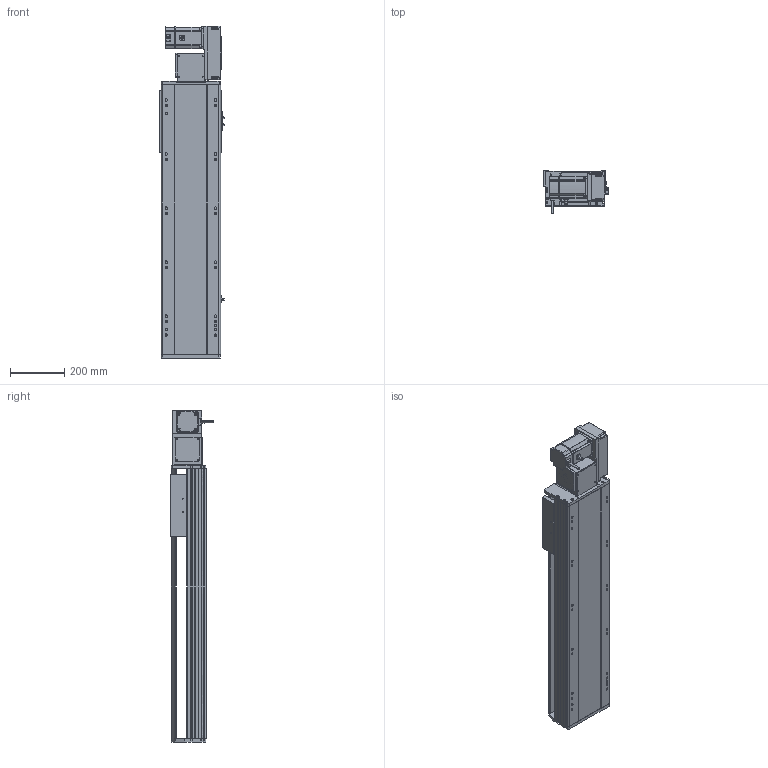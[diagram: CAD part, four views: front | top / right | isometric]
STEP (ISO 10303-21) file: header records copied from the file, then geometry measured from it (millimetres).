
FILE_DESCRIPTION (( 'STEP AP214' ), '1' );
FILE_NAME ('RTB22S-XX-650-R-M75-C4.STEP', '2025-12-12T07:17:00', ( '' ), ( '' ), 'SwSTEP 2.0', 'SolidWorks 2018', '' );
FILE_SCHEMA (( 'AUTOMOTIVE_DESIGN' ));
Length unit declared in the file: millimetre
Products named in the file (14): RTB22S-GY-007奻裔^RTB22S-XX-XX-R-M75-C4; 750W萇儂^RTB22S-XX-XX-R-M75-C4; RTB22S-GY-008-M75--萇儂啣^RTB22S-R-々湍釱蚾饜_RTB22S-XX-XX-R-M75-C4; RTB22S-GY-014--々湍釱^RTB22S-R-々湍釱蚾饜_RTB22S-XX-XX-R-M75-C4; RTB22S-L-011菁釱^RTB22S-XX-XX-R-M75-C4; RTB22S-R-々湍釱蚾饜^RTB22S-XX-XX-R-M75-C4; RTB22S-GY-017P^RTB22S-R-々湍釱蚾饜_RTB22S-XX-XX-R-M75-C4; OMRON EE-SX672 传感器^RTB22S-XX-XX-R-M75-C4; RTB22S-GY-001耜裔^RTB22S-XX-XX-R-M75-C4; RTB22S-GY-018P^RTB22S-R-々湍釱蚾饜_RTB22S-XX-XX-R-M75-C4; RTB22S-L-004賑釱^RTB22S-XX-XX-R-M75-C4; RTB22S-XX-650-R-M75-C4; RTB22S-GY-005P^RTB22S-R-々湍釱蚾饜_RTB22S-XX-XX-R-M75-C4; RTH22-GY-013外置感应片^RTB22S-XX-XX-R-M75-C4
Assembly tree (16 placements, depth 3):
  RTB22S-XX-650-R-M75-C4
    RTB22S-L-011菁釱^RTB22S-XX-XX-R-M75-C4
    RTB22S-GY-001耜裔^RTB22S-XX-XX-R-M75-C4
    750W萇儂^RTB22S-XX-XX-R-M75-C4
    RTB22S-GY-007奻裔^RTB22S-XX-XX-R-M75-C4
    RTB22S-L-004賑釱^RTB22S-XX-XX-R-M75-C4
    RTH22-GY-013外置感应片^RTB22S-XX-XX-R-M75-C4
    OMRON EE-SX672 传感器^RTB22S-XX-XX-R-M75-C4  x3
    RTB22S-R-々湍釱蚾饜^RTB22S-XX-XX-R-M75-C4
      RTB22S-GY-014--々湍釱^RTB22S-R-々湍釱蚾饜_RTB22S-XX-XX-R-M75-C4
      RTB22S-GY-017P^RTB22S-R-々湍釱蚾饜_RTB22S-XX-XX-R-M75-C4  x2
      RTB22S-GY-005P^RTB22S-R-々湍釱蚾饜_RTB22S-XX-XX-R-M75-C4
      RTB22S-GY-008-M75--萇儂啣^RTB22S-R-々湍釱蚾饜_RTB22S-XX-XX-R-M75-C4
      RTB22S-GY-018P^RTB22S-R-々湍釱蚾饜_RTB22S-XX-XX-R-M75-C4
Bounding box: 238.5 x 162.7 x 1229 mm (x, y, z)
Volume: 17207908 mm3; surface area: 1809737.5 mm2
Topology: 15 solids, 15 shells, 1947 faces, 5286 edges, 3392 vertices
Faces by surface type: plane 911, cylinder 598, bspline 296, cone 130, sphere 8, torus 4
Entity records: 51452 total; most frequent: CARTESIAN_POINT 14876, ORIENTED_EDGE 7376, DIRECTION 7062, EDGE_CURVE 3688, AXIS2_PLACEMENT_3D 2478, VERTEX_POINT 2396, LINE 2106, VECTOR 2106
